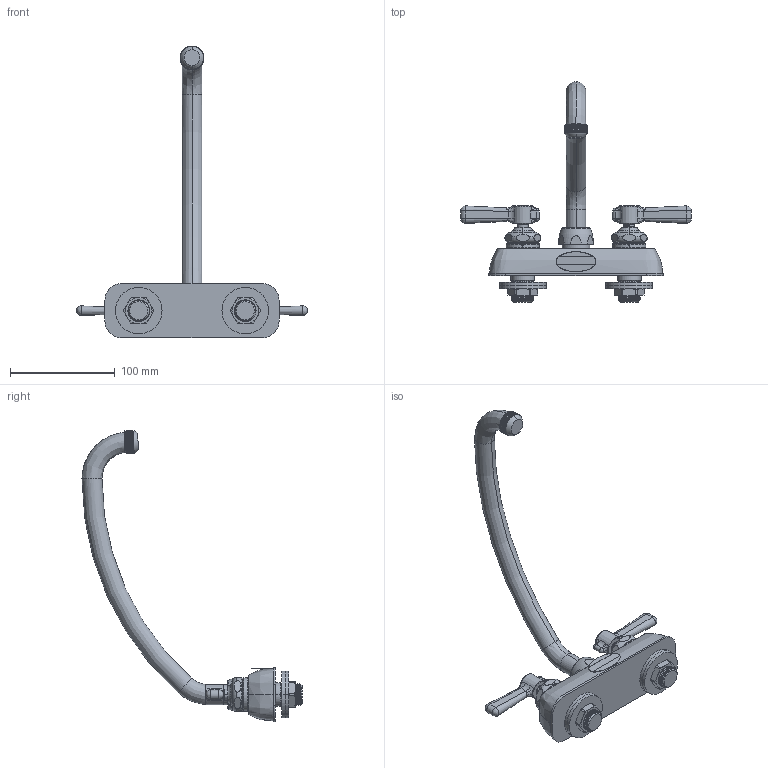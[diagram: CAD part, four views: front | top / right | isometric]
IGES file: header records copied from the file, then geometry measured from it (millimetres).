
Start section:  PTC IGES file: w4d-l9e1-369abcp_REV090512.igs
Global section: file name: w4d-l9e1-369abcp_REV090512.igs; native system: Pro/ENGINEER by Parametric Technology Corporation; preprocessor: 2011330; author: sdmitruk; organization: Unknown; date: 20120907.091835; units: inch
Bounding box: 220.47 x 210.03 x 278.39 mm (x, y, z)
Surface area: 88389.5 mm2 (no closed solid volume)
Topology: 0 solids, 0 shells, 637 faces, 5761 edges, 7862 vertices
Faces by surface type: bspline 339, revolution 298
